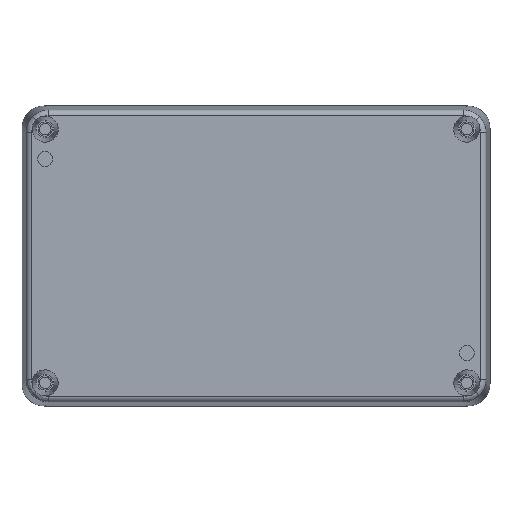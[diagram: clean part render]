
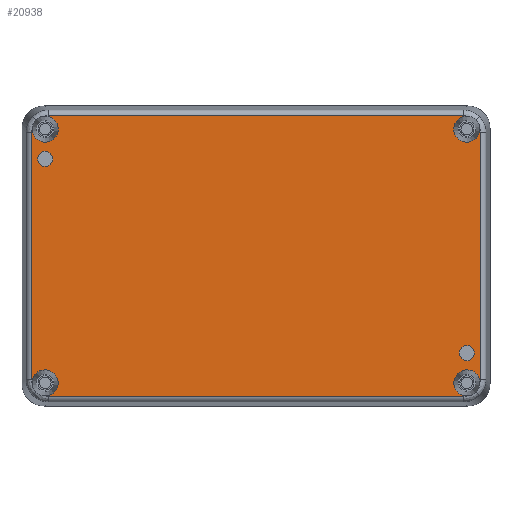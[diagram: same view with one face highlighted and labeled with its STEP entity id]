
A CAD part, front view. The second image highlights one B-rep face of the part: STEP entity #20938.
In plain terms, the highlighted planar face has unit normal (0, -1, 0).
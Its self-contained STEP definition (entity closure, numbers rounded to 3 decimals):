
#956=LINE('',#31433,#2481);
#957=LINE('',#31436,#2482);
#958=LINE('',#31439,#2483);
#959=LINE('',#31441,#2484);
#2481=VECTOR('',#24117,111.218);
#2482=VECTOR('',#24120,66.218);
#2483=VECTOR('',#24123,111.218);
#2484=VECTOR('',#24126,66.218);
#3895=PLANE('',#22336);
#4269=ELLIPSE('',#22273,3.195,2.255);
#4270=ELLIPSE('',#22276,3.195,2.255);
#4271=ELLIPSE('',#22279,3.195,2.255);
#4272=ELLIPSE('',#22282,3.195,2.255);
#4277=ELLIPSE('',#22337,3.195,2.255);
#4278=ELLIPSE('',#22338,3.195,2.255);
#4279=ELLIPSE('',#22339,3.195,2.255);
#4280=ELLIPSE('',#22340,3.195,2.255);
#4375=FACE_BOUND('',#6885,.T.);
#4376=FACE_BOUND('',#6886,.T.);
#5532=FACE_OUTER_BOUND('',#6884,.T.);
#6884=EDGE_LOOP('',(#14722,#14723,#14724,#14725,#14726,#14727,#14728,#14729,
#14730,#14731,#14732,#14733,#14734,#14735,#14736,#14737));
#6885=EDGE_LOOP('',(#14738));
#6886=EDGE_LOOP('',(#14739));
#8257=CIRCLE('',#22199,3.5);
#8259=CIRCLE('',#22202,3.5);
#8261=CIRCLE('',#22205,3.5);
#8263=CIRCLE('',#22208,3.5);
#8290=CIRCLE('',#22252,2.028);
#8292=CIRCLE('',#22255,2.028);
#8944=VERTEX_POINT('',#28282);
#8945=VERTEX_POINT('',#28283);
#8948=VERTEX_POINT('',#28301);
#8949=VERTEX_POINT('',#28302);
#8952=VERTEX_POINT('',#28320);
#8953=VERTEX_POINT('',#28321);
#8956=VERTEX_POINT('',#28339);
#8957=VERTEX_POINT('',#28340);
#8985=VERTEX_POINT('',#28424);
#8987=VERTEX_POINT('',#28429);
#8999=VERTEX_POINT('',#28483);
#9002=VERTEX_POINT('',#28514);
#9005=VERTEX_POINT('',#28545);
#9008=VERTEX_POINT('',#28576);
#9343=VERTEX_POINT('',#31430);
#9344=VERTEX_POINT('',#31432);
#9345=VERTEX_POINT('',#31435);
#9346=VERTEX_POINT('',#31438);
#11045=EDGE_CURVE('',#8944,#8945,#8257,.T.);
#11049=EDGE_CURVE('',#8948,#8949,#8259,.T.);
#11053=EDGE_CURVE('',#8952,#8953,#8261,.T.);
#11057=EDGE_CURVE('',#8956,#8957,#8263,.T.);
#11086=EDGE_CURVE('',#8985,#8985,#8290,.T.);
#11088=EDGE_CURVE('',#8987,#8987,#8292,.T.);
#11101=EDGE_CURVE('',#8948,#8999,#4269,.T.);
#11105=EDGE_CURVE('',#8944,#9002,#4270,.T.);
#11109=EDGE_CURVE('',#8952,#9005,#4271,.T.);
#11113=EDGE_CURVE('',#8956,#9008,#4272,.T.);
#11456=EDGE_CURVE('',#9343,#8945,#4277,.T.);
#11457=EDGE_CURVE('',#9002,#9344,#956,.T.);
#11458=EDGE_CURVE('',#9344,#8957,#4278,.T.);
#11459=EDGE_CURVE('',#9008,#9345,#957,.T.);
#11460=EDGE_CURVE('',#9345,#8953,#4279,.T.);
#11461=EDGE_CURVE('',#9005,#9346,#958,.T.);
#11462=EDGE_CURVE('',#9346,#8949,#4280,.T.);
#11463=EDGE_CURVE('',#8999,#9343,#959,.T.);
#14722=ORIENTED_EDGE('',*,*,#11456,.T.);
#14723=ORIENTED_EDGE('',*,*,#11045,.F.);
#14724=ORIENTED_EDGE('',*,*,#11105,.T.);
#14725=ORIENTED_EDGE('',*,*,#11457,.T.);
#14726=ORIENTED_EDGE('',*,*,#11458,.T.);
#14727=ORIENTED_EDGE('',*,*,#11057,.F.);
#14728=ORIENTED_EDGE('',*,*,#11113,.T.);
#14729=ORIENTED_EDGE('',*,*,#11459,.T.);
#14730=ORIENTED_EDGE('',*,*,#11460,.T.);
#14731=ORIENTED_EDGE('',*,*,#11053,.F.);
#14732=ORIENTED_EDGE('',*,*,#11109,.T.);
#14733=ORIENTED_EDGE('',*,*,#11461,.T.);
#14734=ORIENTED_EDGE('',*,*,#11462,.T.);
#14735=ORIENTED_EDGE('',*,*,#11049,.F.);
#14736=ORIENTED_EDGE('',*,*,#11101,.T.);
#14737=ORIENTED_EDGE('',*,*,#11463,.T.);
#14738=ORIENTED_EDGE('',*,*,#11088,.T.);
#14739=ORIENTED_EDGE('',*,*,#11086,.T.);
#20938=ADVANCED_FACE('',(#5532,#4375,#4376),#3895,.F.);
#22199=AXIS2_PLACEMENT_3D('',#28284,#23721,#23722);
#22202=AXIS2_PLACEMENT_3D('',#28303,#23727,#23728);
#22205=AXIS2_PLACEMENT_3D('',#28322,#23733,#23734);
#22208=AXIS2_PLACEMENT_3D('',#28341,#23739,#23740);
#22252=AXIS2_PLACEMENT_3D('',#28425,#23827,#23828);
#22255=AXIS2_PLACEMENT_3D('',#28430,#23833,#23834);
#22273=AXIS2_PLACEMENT_3D('',#28485,#23869,#23870);
#22276=AXIS2_PLACEMENT_3D('',#28516,#23875,#23876);
#22279=AXIS2_PLACEMENT_3D('',#28547,#23881,#23882);
#22282=AXIS2_PLACEMENT_3D('',#28578,#23887,#23888);
#22336=AXIS2_PLACEMENT_3D('',#31429,#24113,#24114);
#22337=AXIS2_PLACEMENT_3D('',#31431,#24115,#24116);
#22338=AXIS2_PLACEMENT_3D('',#31434,#24118,#24119);
#22339=AXIS2_PLACEMENT_3D('',#31437,#24121,#24122);
#22340=AXIS2_PLACEMENT_3D('',#31440,#24124,#24125);
#23721=DIRECTION('center_axis',(0.,-1.,0.));
#23722=DIRECTION('ref_axis',(0.,0.,-1.));
#23727=DIRECTION('center_axis',(0.,-1.,0.));
#23728=DIRECTION('ref_axis',(0.,0.,-1.));
#23733=DIRECTION('center_axis',(0.,-1.,0.));
#23734=DIRECTION('ref_axis',(0.,0.,-1.));
#23739=DIRECTION('center_axis',(0.,-1.,0.));
#23740=DIRECTION('ref_axis',(0.,0.,-1.));
#23827=DIRECTION('center_axis',(0.,1.,0.));
#23828=DIRECTION('ref_axis',(0.,0.,1.));
#23833=DIRECTION('center_axis',(0.,1.,0.));
#23834=DIRECTION('ref_axis',(0.,0.,1.));
#23869=DIRECTION('center_axis',(0.,-1.,0.));
#23870=DIRECTION('ref_axis',(-0.109,0.,-0.994));
#23875=DIRECTION('center_axis',(0.,-1.,0.));
#23876=DIRECTION('ref_axis',(0.994,0.,-0.109));
#23881=DIRECTION('center_axis',(0.,-1.,0.));
#23882=DIRECTION('ref_axis',(0.994,0.,-0.109));
#23887=DIRECTION('center_axis',(0.,-1.,0.));
#23888=DIRECTION('ref_axis',(-0.109,0.,-0.994));
#24113=DIRECTION('center_axis',(0.,1.,0.));
#24114=DIRECTION('ref_axis',(0.,0.,1.));
#24115=DIRECTION('center_axis',(0.,-1.,0.));
#24116=DIRECTION('ref_axis',(0.109,0.,-0.994));
#24117=DIRECTION('',(-1.,0.,0.));
#24118=DIRECTION('center_axis',(0.,-1.,0.));
#24119=DIRECTION('ref_axis',(0.994,0.,0.109));
#24120=DIRECTION('',(0.,0.,-1.));
#24121=DIRECTION('center_axis',(0.,-1.,0.));
#24122=DIRECTION('ref_axis',(0.109,0.,-0.994));
#24123=DIRECTION('',(1.,0.,0.));
#24124=DIRECTION('center_axis',(0.,-1.,0.));
#24125=DIRECTION('ref_axis',(0.994,0.,0.109));
#24126=DIRECTION('',(0.,0.,1.));
#28282=CARTESIAN_POINT('',(56.593,-43.2,37.499));
#28283=CARTESIAN_POINT('',(59.999,-43.2,34.093));
#28284=CARTESIAN_POINT('Origin',(56.5,-43.2,34.));
#28301=CARTESIAN_POINT('',(59.999,-43.2,-34.093));
#28302=CARTESIAN_POINT('',(56.593,-43.2,-37.499));
#28303=CARTESIAN_POINT('Origin',(56.5,-43.2,-34.));
#28320=CARTESIAN_POINT('',(-56.593,-43.2,-37.499));
#28321=CARTESIAN_POINT('',(-59.999,-43.2,-34.093));
#28322=CARTESIAN_POINT('Origin',(-56.5,-43.2,-34.));
#28339=CARTESIAN_POINT('',(-59.999,-43.2,34.093));
#28340=CARTESIAN_POINT('',(-56.593,-43.2,37.499));
#28341=CARTESIAN_POINT('Origin',(-56.5,-43.2,34.));
#28424=CARTESIAN_POINT('',(56.5,-43.2,-23.972));
#28425=CARTESIAN_POINT('Origin',(56.5,-43.2,-26.));
#28429=CARTESIAN_POINT('',(-56.5,-43.2,28.028));
#28430=CARTESIAN_POINT('Origin',(-56.5,-43.2,26.));
#28483=CARTESIAN_POINT('',(60.108,-43.2,-33.109));
#28485=CARTESIAN_POINT('Origin',(57.839,-43.2,-33.354));
#28514=CARTESIAN_POINT('',(55.609,-43.2,37.608));
#28516=CARTESIAN_POINT('Origin',(55.854,-43.2,35.339));
#28545=CARTESIAN_POINT('',(-55.609,-43.2,-37.608));
#28547=CARTESIAN_POINT('Origin',(-55.854,-43.2,-35.339));
#28576=CARTESIAN_POINT('',(-60.108,-43.2,33.109));
#28578=CARTESIAN_POINT('Origin',(-57.839,-43.2,33.354));
#31429=CARTESIAN_POINT('Origin',(-62.7,-43.2,40.2));
#31430=CARTESIAN_POINT('',(60.108,-43.2,33.109));
#31431=CARTESIAN_POINT('Origin',(57.839,-43.2,33.354));
#31432=CARTESIAN_POINT('',(-55.609,-43.2,37.608));
#31433=CARTESIAN_POINT('',(55.609,-43.2,37.608));
#31434=CARTESIAN_POINT('Origin',(-55.854,-43.2,35.339));
#31435=CARTESIAN_POINT('',(-60.108,-43.2,-33.109));
#31436=CARTESIAN_POINT('',(-60.108,-43.2,33.109));
#31437=CARTESIAN_POINT('Origin',(-57.839,-43.2,-33.354));
#31438=CARTESIAN_POINT('',(55.609,-43.2,-37.608));
#31439=CARTESIAN_POINT('',(-55.609,-43.2,-37.608));
#31440=CARTESIAN_POINT('Origin',(55.854,-43.2,-35.339));
#31441=CARTESIAN_POINT('',(60.108,-43.2,-33.109));
